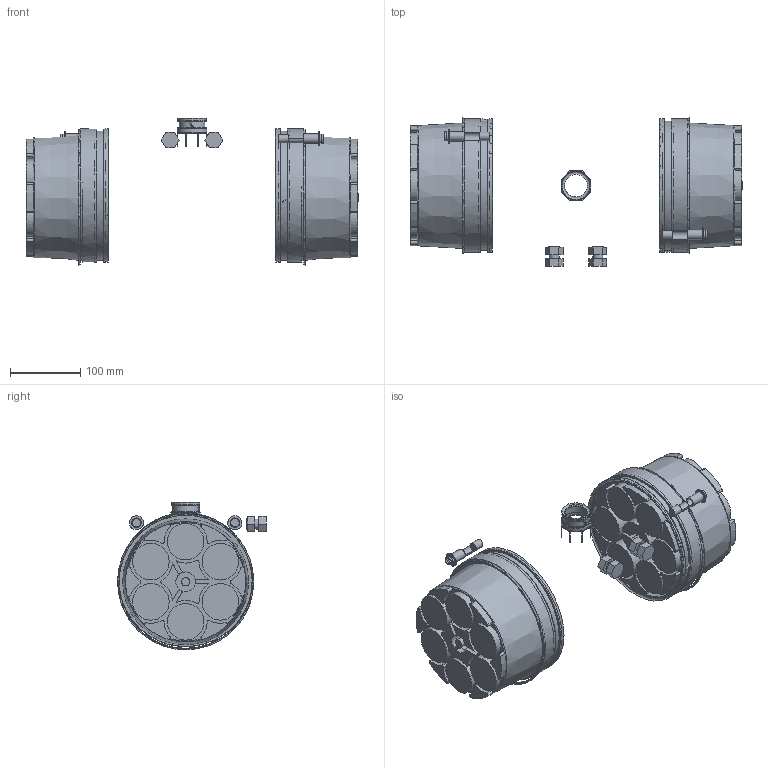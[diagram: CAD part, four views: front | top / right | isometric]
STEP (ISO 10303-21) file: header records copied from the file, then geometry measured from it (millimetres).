
FILE_DESCRIPTION(('Open CASCADE Model'),'2;1');
FILE_NAME('Open CASCADE Shape Model','2023-01-26T10:20:35',('Author'),( 'Open CASCADE'),'Open CASCADE STEP processor 7.3','Open CASCADE 7.3' ,'Unknown');
FILE_SCHEMA(('AUTOMOTIVE_DESIGN { 1 0 10303 214 1 1 1 1 }'));
Length unit declared in the file: millimetre
Products named in the file (9): Open CASCADE STEP translator 7.3 1; Open CASCADE STEP translator 7.3 1.1; Open CASCADE STEP translator 7.3 1.2; Open CASCADE STEP translator 7.3 1.3; Open CASCADE STEP translator 7.3 1.4; Open CASCADE STEP translator 7.3 1.5; Open CASCADE STEP translator 7.3 1.6; Open CASCADE STEP translator 7.3 1.7; Open CASCADE STEP translator 7.3 1.8
Assembly tree (8 placements, depth 2):
  Open CASCADE STEP translator 7.3 1
    Open CASCADE STEP translator 7.3 1.1
    Open CASCADE STEP translator 7.3 1.2
    Open CASCADE STEP translator 7.3 1.3
    Open CASCADE STEP translator 7.3 1.4
    Open CASCADE STEP translator 7.3 1.5
    Open CASCADE STEP translator 7.3 1.6
    Open CASCADE STEP translator 7.3 1.7
    Open CASCADE STEP translator 7.3 1.8
Bounding box: 472.04 x 211.57 x 209.96 mm (x, y, z)
Volume: 5454311.2 mm3; surface area: 433709.9 mm2
Topology: 7 solids, 9 shells, 486 faces, 1179 edges, 770 vertices
Faces by surface type: cylinder 255, plane 213, cone 9, torus 9
Full cylindrical faces by diameter (mm): 12 x6, 13.5 x2, 14 x4, 20 x2, 31.8 x1, 35.9 x1, 39.5 x2, 40 x1, 42 x1, 52 x24, 176 x2, 180.8 x2, 183.7 x2, 188.7 x4, 189.25 x2, 190 x2
Entity records: 33971 total; most frequent: CARTESIAN_POINT 9956, DIRECTION 4748, ORIENTED_EDGE 2356, PCURVE 2356, DEFINITIONAL_REPRESENTATION 2356, LINE 2082, VECTOR 2082, EDGE_CURVE 1179
